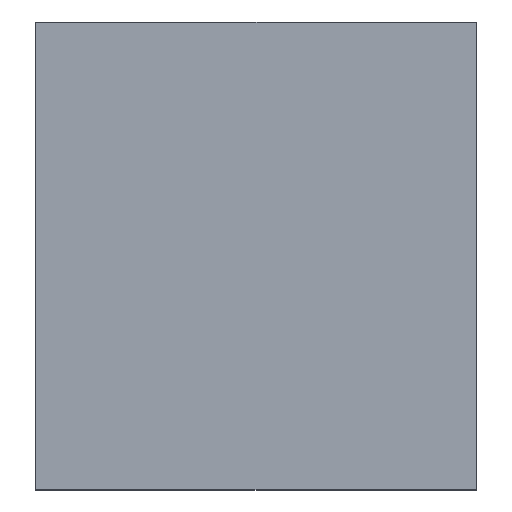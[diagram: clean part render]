
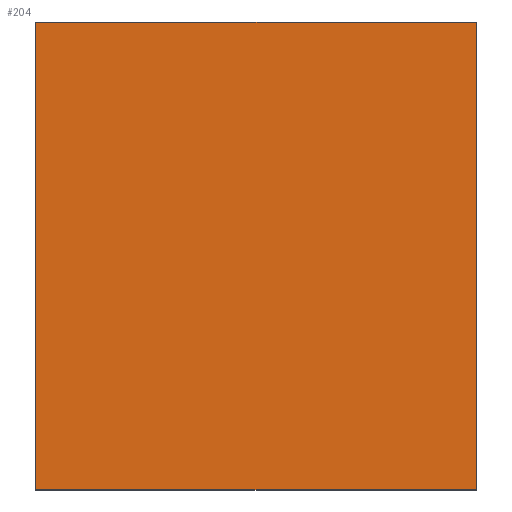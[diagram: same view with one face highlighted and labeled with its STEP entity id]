
A CAD part, top view. The second image highlights one B-rep face of the part: STEP entity #204.
In plain terms, the highlighted planar face has unit normal (0, 0, 1).
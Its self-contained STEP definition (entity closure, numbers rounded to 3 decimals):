
#55 = VERTEX_POINT ( 'NONE', #837 ) ;
#95 = CARTESIAN_POINT ( 'NONE',  ( 0., 0., 19. ) ) ;
#102 = DIRECTION ( 'NONE',  ( 0., 0., -1. ) ) ;
#105 = VERTEX_POINT ( 'NONE', #917 ) ;
#117 = EDGE_CURVE ( 'NONE', #446, #843, #1013, .T. ) ;
#122 = CARTESIAN_POINT ( 'NONE',  ( 0., 0., 19. ) ) ;
#171 = EDGE_CURVE ( 'NONE', #105, #446, #638, .T. ) ;
#195 = ORIENTED_EDGE ( 'NONE', *, *, #319, .T. ) ;
#204 = ADVANCED_FACE ( 'NONE', ( #539 ), #899, .F. ) ;
#303 = LINE ( 'NONE', #550, #564 ) ;
#319 = EDGE_CURVE ( 'NONE', #55, #105, #303, .T. ) ;
#333 = EDGE_LOOP ( 'NONE', ( #693, #354, #195, #541 ) ) ;
#354 = ORIENTED_EDGE ( 'NONE', *, *, #496, .T. ) ;
#363 = CARTESIAN_POINT ( 'NONE',  ( 0., 0., 19. ) ) ;
#444 = DIRECTION ( 'NONE',  ( -1., 0., 0. ) ) ;
#446 = VERTEX_POINT ( 'NONE', #1053 ) ;
#482 = DIRECTION ( 'NONE',  ( 0., -1., 0. ) ) ;
#496 = EDGE_CURVE ( 'NONE', #843, #55, #715, .T. ) ;
#526 = VECTOR ( 'NONE', #532, 1000. ) ;
#532 = DIRECTION ( 'NONE',  ( 1., 0., 0. ) ) ;
#539 = FACE_OUTER_BOUND ( 'NONE', #333, .T. ) ;
#541 = ORIENTED_EDGE ( 'NONE', *, *, #171, .T. ) ;
#550 = CARTESIAN_POINT ( 'NONE',  ( 66., 0., 19. ) ) ;
#564 = VECTOR ( 'NONE', #1087, 1000. ) ;
#638 = LINE ( 'NONE', #721, #993 ) ;
#693 = ORIENTED_EDGE ( 'NONE', *, *, #117, .T. ) ;
#715 = LINE ( 'NONE', #363, #526 ) ;
#721 = CARTESIAN_POINT ( 'NONE',  ( 0., 70., 19. ) ) ;
#837 = CARTESIAN_POINT ( 'NONE',  ( 66., 0., 19. ) ) ;
#843 = VERTEX_POINT ( 'NONE', #909 ) ;
#899 = PLANE ( 'NONE',  #950 ) ;
#906 = DIRECTION ( 'NONE',  ( -1., 0., 0. ) ) ;
#909 = CARTESIAN_POINT ( 'NONE',  ( 0., 0., 19. ) ) ;
#917 = CARTESIAN_POINT ( 'NONE',  ( 66., 70., 19. ) ) ;
#950 = AXIS2_PLACEMENT_3D ( 'NONE', #95, #102, #444 ) ;
#993 = VECTOR ( 'NONE', #906, 1000. ) ;
#1013 = LINE ( 'NONE', #122, #1139 ) ;
#1053 = CARTESIAN_POINT ( 'NONE',  ( 0., 70., 19. ) ) ;
#1087 = DIRECTION ( 'NONE',  ( 0., 1., 0. ) ) ;
#1139 = VECTOR ( 'NONE', #482, 1000. ) ;
